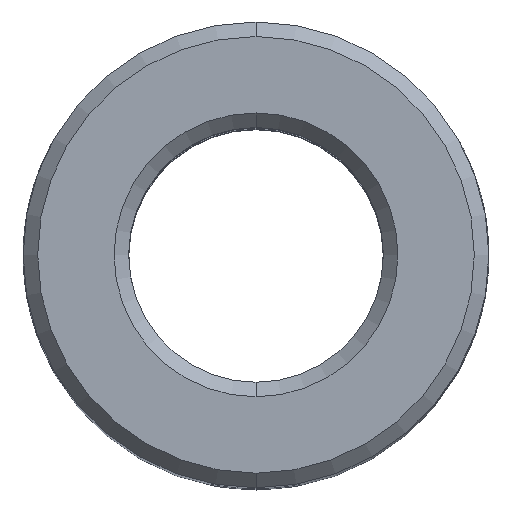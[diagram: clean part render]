
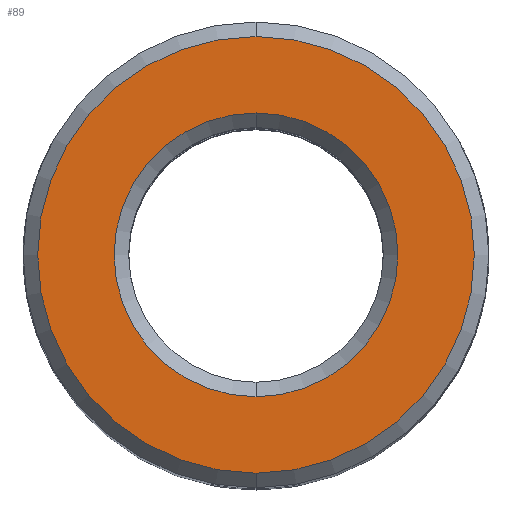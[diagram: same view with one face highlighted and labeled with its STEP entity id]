
A CAD part, top view. The second image highlights one B-rep face of the part: STEP entity #89.
In plain terms, the highlighted planar face has unit normal (0, 0, 1).
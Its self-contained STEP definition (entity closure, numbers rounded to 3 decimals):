
#19 = CARTESIAN_POINT ( 'NONE',  ( 0., 8.75, 0. ) ) ;
#81 = CIRCLE ( 'NONE', #945, 9.75 ) ;
#89 = ADVANCED_FACE ( 'NONE', ( #395, #935 ), #771, .F. ) ;
#198 = EDGE_LOOP ( 'NONE', ( #737, #508 ) ) ;
#223 = DIRECTION ( 'NONE',  ( 0., 1., 0. ) ) ;
#236 = VERTEX_POINT ( 'NONE', #510 ) ;
#248 = CIRCLE ( 'NONE', #1070, 15. ) ;
#311 = ORIENTED_EDGE ( 'NONE', *, *, #482, .T. ) ;
#317 = DIRECTION ( 'NONE',  ( 0., 1., 0. ) ) ;
#327 = DIRECTION ( 'NONE',  ( 0., 0., -1. ) ) ;
#379 = CARTESIAN_POINT ( 'NONE',  ( 0., 0., 0. ) ) ;
#392 = CIRCLE ( 'NONE', #601, 9.75 ) ;
#395 = FACE_BOUND ( 'NONE', #198, .T. ) ;
#399 = CARTESIAN_POINT ( 'NONE',  ( 0., 0., 0. ) ) ;
#417 = DIRECTION ( 'NONE',  ( 0., 0., -1. ) ) ;
#435 = AXIS2_PLACEMENT_3D ( 'NONE', #19, #417, #1237 ) ;
#438 = CIRCLE ( 'NONE', #1187, 15. ) ;
#482 = EDGE_CURVE ( 'NONE', #1030, #713, #438, .T. ) ;
#491 = DIRECTION ( 'NONE',  ( 0., 1., 0. ) ) ;
#508 = ORIENTED_EDGE ( 'NONE', *, *, #1295, .T. ) ;
#510 = CARTESIAN_POINT ( 'NONE',  ( 0., -9.75, 0. ) ) ;
#601 = AXIS2_PLACEMENT_3D ( 'NONE', #379, #327, #317 ) ;
#713 = VERTEX_POINT ( 'NONE', #837 ) ;
#737 = ORIENTED_EDGE ( 'NONE', *, *, #1245, .T. ) ;
#771 = PLANE ( 'NONE',  #435 ) ;
#811 = VERTEX_POINT ( 'NONE', #1301 ) ;
#837 = CARTESIAN_POINT ( 'NONE',  ( 0., -15., 0. ) ) ;
#871 = EDGE_LOOP ( 'NONE', ( #311, #1167 ) ) ;
#935 = FACE_OUTER_BOUND ( 'NONE', #871, .T. ) ;
#937 = CARTESIAN_POINT ( 'NONE',  ( 0., 0., 0. ) ) ;
#945 = AXIS2_PLACEMENT_3D ( 'NONE', #937, #1029, #1141 ) ;
#1002 = CARTESIAN_POINT ( 'NONE',  ( 0., 0., 0. ) ) ;
#1029 = DIRECTION ( 'NONE',  ( 0., 0., -1. ) ) ;
#1030 = VERTEX_POINT ( 'NONE', #1285 ) ;
#1070 = AXIS2_PLACEMENT_3D ( 'NONE', #1002, #1115, #223 ) ;
#1113 = DIRECTION ( 'NONE',  ( 0., 0., 1. ) ) ;
#1115 = DIRECTION ( 'NONE',  ( 0., 0., 1. ) ) ;
#1141 = DIRECTION ( 'NONE',  ( 0., 1., 0. ) ) ;
#1144 = EDGE_CURVE ( 'NONE', #713, #1030, #248, .T. ) ;
#1167 = ORIENTED_EDGE ( 'NONE', *, *, #1144, .T. ) ;
#1187 = AXIS2_PLACEMENT_3D ( 'NONE', #399, #1113, #491 ) ;
#1237 = DIRECTION ( 'NONE',  ( 0., 1., 0. ) ) ;
#1245 = EDGE_CURVE ( 'NONE', #236, #811, #392, .T. ) ;
#1285 = CARTESIAN_POINT ( 'NONE',  ( 0., 15., 0. ) ) ;
#1295 = EDGE_CURVE ( 'NONE', #811, #236, #81, .T. ) ;
#1301 = CARTESIAN_POINT ( 'NONE',  ( 0., 9.75, 0. ) ) ;
